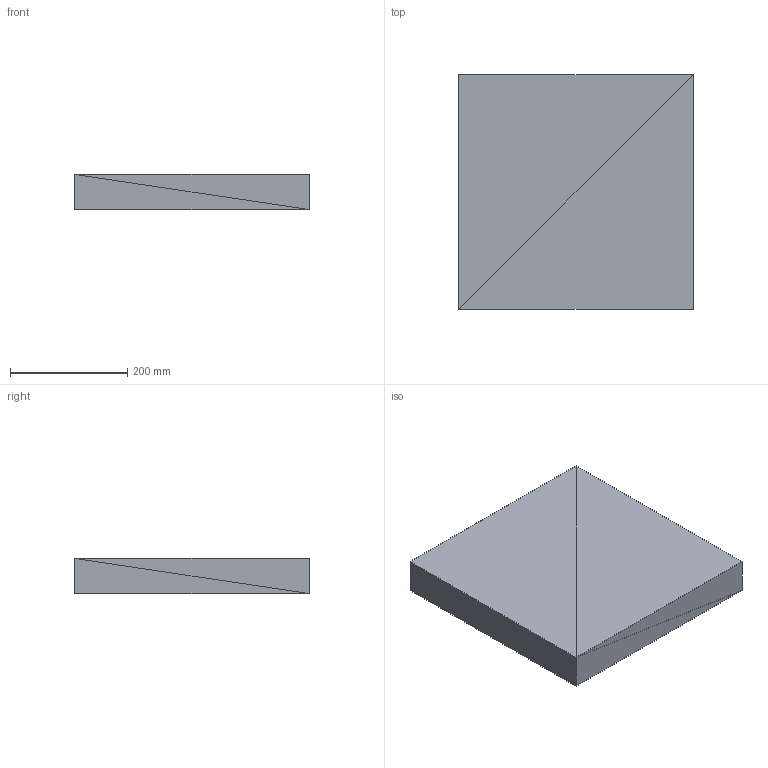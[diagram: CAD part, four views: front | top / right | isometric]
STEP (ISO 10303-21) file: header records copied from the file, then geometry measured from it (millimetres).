
FILE_DESCRIPTION(('ISINAC STEP AP214'),'2;1');
FILE_NAME('ISINAC_C.400_60mm_ADHESIVO','2026-05-03T10:49:19',('ISINAC'),('www.isinac.com'),'ISINAC BIM Generator 1.0','','');
FILE_SCHEMA(('AUTOMOTIVE_DESIGN'));
Length unit declared in the file: millimetre
Products named in the file (1): ISINAC_C.400_60mm_ADHESIVO
Bounding box: 400 x 400 x 60 mm (x, y, z)
Surface area: 416000 mm2 (no closed solid volume)
Topology: 0 solids, 12 shells, 12 faces, 36 edges, 36 vertices
Faces by surface type: plane 12
Entity records: 145 total; most frequent: CARTESIAN_POINT 48, DIRECTION 24, POLY_LOOP 12, FACE_OUTER_BOUND 12, AXIS2_PLACEMENT_3D 12, PLANE 12, FACE_SURFACE 12, CLOSED_SHELL 1
